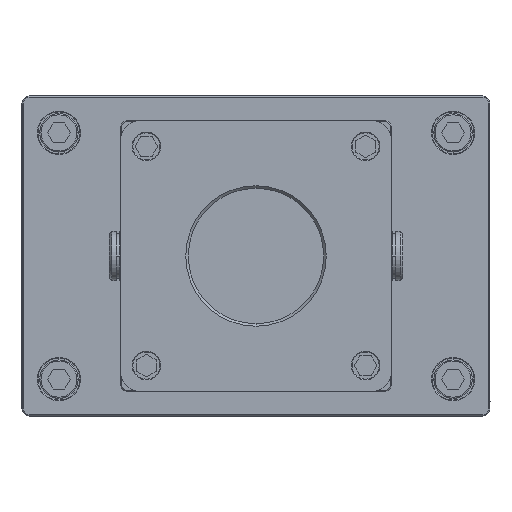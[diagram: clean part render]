
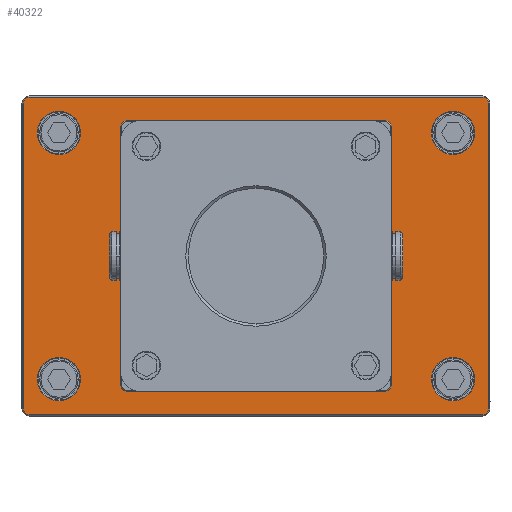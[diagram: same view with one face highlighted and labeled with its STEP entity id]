
A CAD part, front view. The second image highlights one B-rep face of the part: STEP entity #40322.
In plain terms, the highlighted planar face has unit normal (0, -1, 0) as drawn and (0, 1, 0) by its records, which use the part's own axes.
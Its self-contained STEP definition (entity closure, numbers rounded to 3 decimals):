
#38774=CARTESIAN_POINT('',(0.,9.,0.));
#38775=DIRECTION('',(0.,-1.,0.));
#38776=DIRECTION('',(1.,0.,0.));
#38777=AXIS2_PLACEMENT_3D('',#38774,#38775,#38776);
#38779=CARTESIAN_POINT('',(0.,9.,0.));
#38780=DIRECTION('',(0.,-1.,0.));
#38781=DIRECTION('',(-1.,0.,0.));
#38782=AXIS2_PLACEMENT_3D('',#38779,#38780,#38781);
#38784=CARTESIAN_POINT('',(-92.,9.,-62.));
#38785=DIRECTION('',(0.,1.,0.));
#38786=DIRECTION('',(0.,0.,-1.));
#38787=AXIS2_PLACEMENT_3D('',#38784,#38785,#38786);
#38789=DIRECTION('',(-1.,0.,0.));
#38790=VECTOR('',#38789,184.);
#38791=CARTESIAN_POINT('',(92.,9.,
-64.5));
#38792=LINE('',#38791,#38790);
#38793=CARTESIAN_POINT('',(92.,9.,-62.));
#38794=DIRECTION('',(0.,1.,0.));
#38795=DIRECTION('',(1.,0.,0.));
#38796=AXIS2_PLACEMENT_3D('',#38793,#38794,#38795);
#38798=DIRECTION('',(0.,0.,-1.));
#38799=VECTOR('',#38798,124.);
#38800=CARTESIAN_POINT('',(94.5,9.,62.));
#38801=LINE('',#38800,#38799);
#38802=CARTESIAN_POINT('',(92.,9.,62.));
#38803=DIRECTION('',(0.,1.,0.));
#38804=DIRECTION('',(0.,0.,1.));
#38805=AXIS2_PLACEMENT_3D('',#38802,#38803,#38804);
#38807=DIRECTION('',(1.,0.,0.));
#38808=VECTOR('',#38807,184.);
#38809=CARTESIAN_POINT('',(-92.,9.,
64.5));
#38810=LINE('',#38809,#38808);
#38811=CARTESIAN_POINT('',(-92.,9.,62.));
#38812=DIRECTION('',(0.,1.,0.));
#38813=DIRECTION('',(-1.,0.,0.));
#38814=AXIS2_PLACEMENT_3D('',#38811,#38812,#38813);
#38816=DIRECTION('',(0.,0.,1.));
#38817=VECTOR('',#38816,124.);
#38818=CARTESIAN_POINT('',(-94.5,9.,
-62.));
#38819=LINE('',#38818,#38817);
#38820=CARTESIAN_POINT('',(80.,9.,50.));
#38821=DIRECTION('',(0.,-1.,0.));
#38822=DIRECTION('',(1.,0.,0.));
#38823=AXIS2_PLACEMENT_3D('',#38820,#38821,#38822);
#38825=CARTESIAN_POINT('',(80.,9.,50.));
#38826=DIRECTION('',(0.,-1.,0.));
#38827=DIRECTION('',(-1.,0.,0.));
#38828=AXIS2_PLACEMENT_3D('',#38825,#38826,#38827);
#38830=CARTESIAN_POINT('',(-80.,9.,50.));
#38831=DIRECTION('',(0.,-1.,0.));
#38832=DIRECTION('',(1.,0.,0.));
#38833=AXIS2_PLACEMENT_3D('',#38830,#38831,#38832);
#38835=CARTESIAN_POINT('',(-80.,9.,50.));
#38836=DIRECTION('',(0.,-1.,0.));
#38837=DIRECTION('',(-1.,0.,0.));
#38838=AXIS2_PLACEMENT_3D('',#38835,#38836,#38837);
#38840=CARTESIAN_POINT('',(80.,9.,-50.));
#38841=DIRECTION('',(0.,-1.,0.));
#38842=DIRECTION('',(1.,0.,0.));
#38843=AXIS2_PLACEMENT_3D('',#38840,#38841,#38842);
#38845=CARTESIAN_POINT('',(80.,9.,-50.));
#38846=DIRECTION('',(0.,-1.,0.));
#38847=DIRECTION('',(-1.,0.,0.));
#38848=AXIS2_PLACEMENT_3D('',#38845,#38846,#38847);
#38850=CARTESIAN_POINT('',(-80.,9.,-50.));
#38851=DIRECTION('',(0.,-1.,0.));
#38852=DIRECTION('',(1.,0.,0.));
#38853=AXIS2_PLACEMENT_3D('',#38850,#38851,#38852);
#38855=CARTESIAN_POINT('',(-80.,9.,-50.));
#38856=DIRECTION('',(0.,-1.,0.));
#38857=DIRECTION('',(-1.,0.,0.));
#38858=AXIS2_PLACEMENT_3D('',#38855,#38856,#38857);
#38860=CARTESIAN_POINT('',(-44.5,9.,-44.5));
#38861=DIRECTION('',(0.,1.,0.));
#38862=DIRECTION('',(1.,0.,0.));
#38863=AXIS2_PLACEMENT_3D('',#38860,#38861,#38862);
#38865=CARTESIAN_POINT('',(-44.5,9.,-44.5));
#38866=DIRECTION('',(0.,1.,0.));
#38867=DIRECTION('',(-1.,0.,0.));
#38868=AXIS2_PLACEMENT_3D('',#38865,#38866,#38867);
#38870=CARTESIAN_POINT('',(-44.5,9.,44.5));
#38871=DIRECTION('',(0.,1.,0.));
#38872=DIRECTION('',(0.,0.,-1.));
#38873=AXIS2_PLACEMENT_3D('',#38870,#38871,#38872);
#38875=CARTESIAN_POINT('',(-44.5,9.,44.5));
#38876=DIRECTION('',(0.,1.,0.));
#38877=DIRECTION('',(0.,0.,1.));
#38878=AXIS2_PLACEMENT_3D('',#38875,#38876,#38877);
#38880=CARTESIAN_POINT('',(44.5,9.,44.5));
#38881=DIRECTION('',(0.,1.,0.));
#38882=DIRECTION('',(-1.,0.,0.));
#38883=AXIS2_PLACEMENT_3D('',#38880,#38881,#38882);
#38885=CARTESIAN_POINT('',(44.5,9.,44.5));
#38886=DIRECTION('',(0.,1.,0.));
#38887=DIRECTION('',(1.,0.,0.));
#38888=AXIS2_PLACEMENT_3D('',#38885,#38886,#38887);
#38890=CARTESIAN_POINT('',(44.5,9.,-44.5));
#38891=DIRECTION('',(0.,1.,0.));
#38892=DIRECTION('',(0.,0.,1.));
#38893=AXIS2_PLACEMENT_3D('',#38890,#38891,#38892);
#38895=CARTESIAN_POINT('',(44.5,9.,-44.5));
#38896=DIRECTION('',(0.,1.,0.));
#38897=DIRECTION('',(0.,0.,-1.));
#38898=AXIS2_PLACEMENT_3D('',#38895,#38896,#38897);
#39806=CARTESIAN_POINT('',(38.,9.,0.));
#39807=CARTESIAN_POINT('',(-38.,9.,0.));
#39808=VERTEX_POINT('',#39806);
#39809=VERTEX_POINT('',#39807);
#39854=CARTESIAN_POINT('',(-92.,9.,-64.5));
#39855=CARTESIAN_POINT('',(-94.5,9.,-62.));
#39856=VERTEX_POINT('',#39854);
#39857=VERTEX_POINT('',#39855);
#39862=CARTESIAN_POINT('',(-94.5,9.,
62.));
#39863=VERTEX_POINT('',#39862);
#39866=CARTESIAN_POINT('',(-92.,9.,64.5));
#39867=VERTEX_POINT('',#39866);
#39870=CARTESIAN_POINT('',(92.,9.,64.5));
#39871=VERTEX_POINT('',#39870);
#39874=CARTESIAN_POINT('',(94.5,9.,62.));
#39875=VERTEX_POINT('',#39874);
#39878=CARTESIAN_POINT('',(94.5,9.,
-62.));
#39879=VERTEX_POINT('',#39878);
#39882=CARTESIAN_POINT('',(92.,9.,-64.5));
#39883=VERTEX_POINT('',#39882);
#39902=CARTESIAN_POINT('',(88.8,9.,50.));
#39903=CARTESIAN_POINT('',(71.2,9.,50.));
#39904=VERTEX_POINT('',#39902);
#39905=VERTEX_POINT('',#39903);
#39926=CARTESIAN_POINT('',(-71.2,9.,50.));
#39927=CARTESIAN_POINT('',(-88.8,9.,50.));
#39928=VERTEX_POINT('',#39926);
#39929=VERTEX_POINT('',#39927);
#39942=CARTESIAN_POINT('',(88.8,9.,-50.));
#39943=CARTESIAN_POINT('',(71.2,9.,-50.));
#39944=VERTEX_POINT('',#39942);
#39945=VERTEX_POINT('',#39943);
#39950=CARTESIAN_POINT('',(-71.2,9.,-50.));
#39951=CARTESIAN_POINT('',(-88.8,9.,-50.));
#39952=VERTEX_POINT('',#39950);
#39953=VERTEX_POINT('',#39951);
#40050=CARTESIAN_POINT('',(-39.5,9.,-44.5));
#40051=CARTESIAN_POINT('',(-49.5,9.,-44.5));
#40052=VERTEX_POINT('',#40050);
#40053=VERTEX_POINT('',#40051);
#40058=CARTESIAN_POINT('',(-44.5,9.,39.5));
#40059=CARTESIAN_POINT('',(-44.5,9.,49.5));
#40060=VERTEX_POINT('',#40058);
#40061=VERTEX_POINT('',#40059);
#40066=CARTESIAN_POINT('',(39.5,9.,44.5));
#40067=CARTESIAN_POINT('',(49.5,9.,44.5));
#40068=VERTEX_POINT('',#40066);
#40069=VERTEX_POINT('',#40067);
#40074=CARTESIAN_POINT('',(44.5,9.,-39.5));
#40075=CARTESIAN_POINT('',(44.5,9.,-49.5));
#40076=VERTEX_POINT('',#40074);
#40077=VERTEX_POINT('',#40075);
#40246=CARTESIAN_POINT('',(0.,9.,0.));
#40247=DIRECTION('',(0.,1.,0.));
#40248=DIRECTION('',(1.,0.,0.));
#40249=AXIS2_PLACEMENT_3D('',#40246,#40247,#40248);
#40250=PLANE('',#40249);
#40252=ORIENTED_EDGE('',*,*,#40251,.F.);
#40254=ORIENTED_EDGE('',*,*,#40253,.F.);
#40256=ORIENTED_EDGE('',*,*,#40255,.F.);
#40258=ORIENTED_EDGE('',*,*,#40257,.F.);
#40260=ORIENTED_EDGE('',*,*,#40259,.F.);
#40262=ORIENTED_EDGE('',*,*,#40261,.F.);
#40264=ORIENTED_EDGE('',*,*,#40263,.F.);
#40266=ORIENTED_EDGE('',*,*,#40265,.F.);
#40267=EDGE_LOOP('',(#40252,#40254,#40256,#40258,#40260,#40262,#40264,#40266));
#40268=FACE_OUTER_BOUND('',#40267,.F.);
#40270=ORIENTED_EDGE('',*,*,#40269,.F.);
#40271=ORIENTED_EDGE('',*,*,#40236,.F.);
#40272=EDGE_LOOP('',(#40270,#40271));
#40273=FACE_BOUND('',#40272,.F.);
#40275=ORIENTED_EDGE('',*,*,#40274,.F.);
#40277=ORIENTED_EDGE('',*,*,#40276,.F.);
#40278=EDGE_LOOP('',(#40275,#40277));
#40279=FACE_BOUND('',#40278,.F.);
#40281=ORIENTED_EDGE('',*,*,#40280,.F.);
#40283=ORIENTED_EDGE('',*,*,#40282,.F.);
#40284=EDGE_LOOP('',(#40281,#40283));
#40285=FACE_BOUND('',#40284,.F.);
#40287=ORIENTED_EDGE('',*,*,#40286,.F.);
#40289=ORIENTED_EDGE('',*,*,#40288,.F.);
#40290=EDGE_LOOP('',(#40287,#40289));
#40291=FACE_BOUND('',#40290,.F.);
#40293=ORIENTED_EDGE('',*,*,#40292,.F.);
#40295=ORIENTED_EDGE('',*,*,#40294,.F.);
#40296=EDGE_LOOP('',(#40293,#40295));
#40297=FACE_BOUND('',#40296,.F.);
#40299=ORIENTED_EDGE('',*,*,#40298,.T.);
#40301=ORIENTED_EDGE('',*,*,#40300,.T.);
#40302=EDGE_LOOP('',(#40299,#40301));
#40303=FACE_BOUND('',#40302,.F.);
#40305=ORIENTED_EDGE('',*,*,#40304,.T.);
#40307=ORIENTED_EDGE('',*,*,#40306,.T.);
#40308=EDGE_LOOP('',(#40305,#40307));
#40309=FACE_BOUND('',#40308,.F.);
#40311=ORIENTED_EDGE('',*,*,#40310,.T.);
#40313=ORIENTED_EDGE('',*,*,#40312,.T.);
#40314=EDGE_LOOP('',(#40311,#40313));
#40315=FACE_BOUND('',#40314,.F.);
#40317=ORIENTED_EDGE('',*,*,#40316,.T.);
#40319=ORIENTED_EDGE('',*,*,#40318,.T.);
#40320=EDGE_LOOP('',(#40317,#40319));
#40321=FACE_BOUND('',#40320,.F.);
#40322=ADVANCED_FACE('',(#40268,#40273,#40279,#40285,#40291,#40297,#40303,
#40309,#40315,#40321),#40250,.T.);
#38778=CIRCLE('',#38777,38.);
#38783=CIRCLE('',#38782,38.);
#38788=CIRCLE('',#38787,2.5);
#38797=CIRCLE('',#38796,2.5);
#38806=CIRCLE('',#38805,2.5);
#38815=CIRCLE('',#38814,2.5);
#38824=CIRCLE('',#38823,8.8);
#38829=CIRCLE('',#38828,8.8);
#38834=CIRCLE('',#38833,8.8);
#38839=CIRCLE('',#38838,8.8);
#38844=CIRCLE('',#38843,8.8);
#38849=CIRCLE('',#38848,8.8);
#38854=CIRCLE('',#38853,8.8);
#38859=CIRCLE('',#38858,8.8);
#38864=CIRCLE('',#38863,5.);
#38869=CIRCLE('',#38868,5.);
#38874=CIRCLE('',#38873,5.);
#38879=CIRCLE('',#38878,5.);
#38884=CIRCLE('',#38883,5.);
#38889=CIRCLE('',#38888,5.);
#38894=CIRCLE('',#38893,5.);
#38899=CIRCLE('',#38898,5.);
#40236=EDGE_CURVE('',#39809,#39808,#38783,.T.);
#40251=EDGE_CURVE('',#39856,#39857,#38788,.T.);
#40253=EDGE_CURVE('',#39883,#39856,#38792,.T.);
#40255=EDGE_CURVE('',#39879,#39883,#38797,.T.);
#40257=EDGE_CURVE('',#39875,#39879,#38801,.T.);
#40259=EDGE_CURVE('',#39871,#39875,#38806,.T.);
#40261=EDGE_CURVE('',#39867,#39871,#38810,.T.);
#40263=EDGE_CURVE('',#39863,#39867,#38815,.T.);
#40265=EDGE_CURVE('',#39857,#39863,#38819,.T.);
#40269=EDGE_CURVE('',#39808,#39809,#38778,.T.);
#40274=EDGE_CURVE('',#39904,#39905,#38824,.T.);
#40276=EDGE_CURVE('',#39905,#39904,#38829,.T.);
#40280=EDGE_CURVE('',#39928,#39929,#38834,.T.);
#40282=EDGE_CURVE('',#39929,#39928,#38839,.T.);
#40286=EDGE_CURVE('',#39944,#39945,#38844,.T.);
#40288=EDGE_CURVE('',#39945,#39944,#38849,.T.);
#40292=EDGE_CURVE('',#39952,#39953,#38854,.T.);
#40294=EDGE_CURVE('',#39953,#39952,#38859,.T.);
#40298=EDGE_CURVE('',#40052,#40053,#38864,.T.);
#40300=EDGE_CURVE('',#40053,#40052,#38869,.T.);
#40304=EDGE_CURVE('',#40060,#40061,#38874,.T.);
#40306=EDGE_CURVE('',#40061,#40060,#38879,.T.);
#40310=EDGE_CURVE('',#40068,#40069,#38884,.T.);
#40312=EDGE_CURVE('',#40069,#40068,#38889,.T.);
#40316=EDGE_CURVE('',#40076,#40077,#38894,.T.);
#40318=EDGE_CURVE('',#40077,#40076,#38899,.T.);
